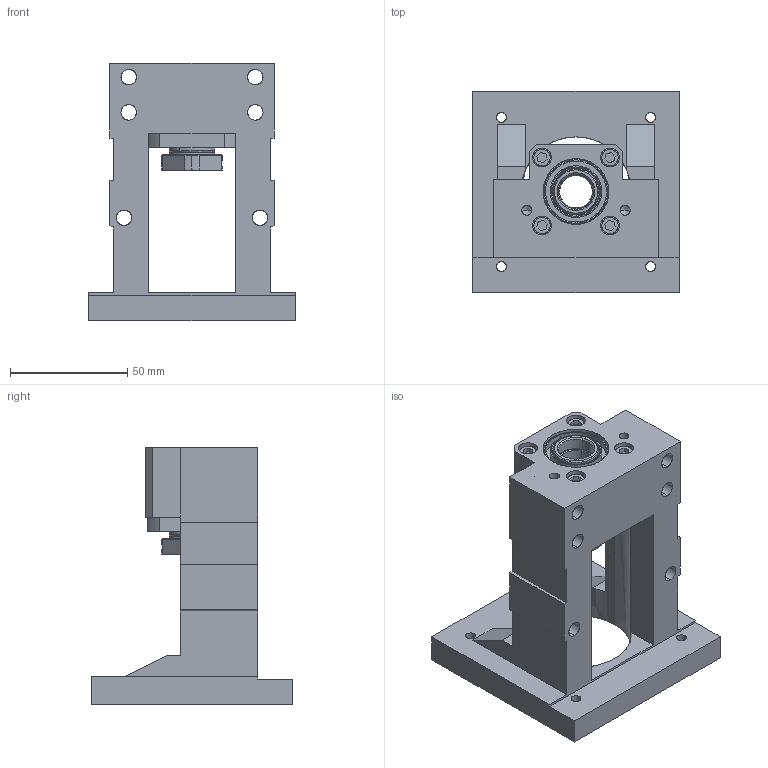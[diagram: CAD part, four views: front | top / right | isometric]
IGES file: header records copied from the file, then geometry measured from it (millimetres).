
Start section: SolidWorks IGES file using analytic representation for surfaces
Global section: file name: C:\Users\117\Desktop\MBCB15M-EP轉造級.IGS,15; native system: HSolidWorks 2018; preprocessor: SolidWorks 2018; author: 117; date: 230112.135031; units: millimetre
Bounding box: 88 x 86 x 110 mm (x, y, z)
Surface area: 79098 mm2 (no closed solid volume)
Topology: 0 solids, 0 shells, 566 faces, 10054 edges, 9984 vertices
Faces by surface type: revolution 313, bspline 253
